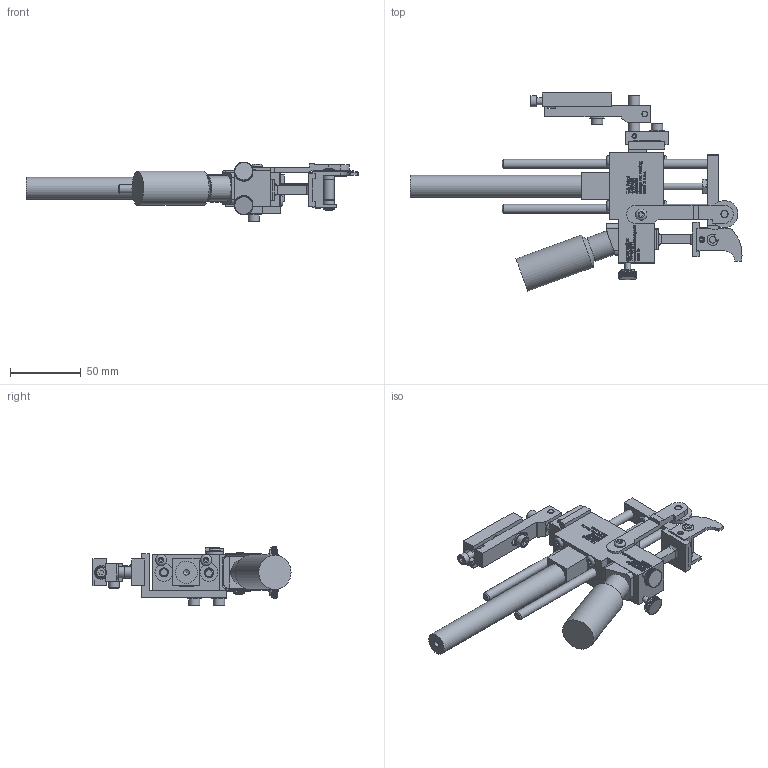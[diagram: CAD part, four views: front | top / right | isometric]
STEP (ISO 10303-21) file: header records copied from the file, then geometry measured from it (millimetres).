
FILE_DESCRIPTION((''),'2;1');
FILE_NAME('C:\Documents and Settings\Ron\My Documents\Inventor\Sprinter Drawing\Machines in Inventor\Model 66\Type\Ext Hd 1in\Brkt\Ret\Model 66 Ext HD 1in type Ret w brkt mod 2012.stp','2012-02-29T07:57:02',('Ron'),(''),'Autodesk Inventor 2011','Autodesk Inventor 2011','');
FILE_SCHEMA(('AUTOMOTIVE_DESIGN { 1 0 10303 214 1 1 1 1 }'));
Length unit declared in the file: inch
Products named in the file (44): Model 66 Ext HD 1in type Ret w brkt mod 2012; 66 Frame Body Assy Ext w brkt; 66 Frame Body; Hexagon Socket Button Head Cap Screw - Inch 8 - 32 x 1/4; Hexagon Socket Head Cap Screw - Inch No. 8 - 32 UNC - 1 1/2; 66 Linear Bearing; 66 Ink; 66 INK BOTTLE; 66 Ink Pad; 66-15-EH1 Whl Brk Arm; 8-32x0.25 Hexagon Socket Button Head Cap Screw ANSI/ASME B18.3; 44 Cam Wheel; 44 Wheel Retainer; 10 Ink Resevior Lock Screw; Model 66 Bracket; Model 66 RPB; rpb4; rpb3; rpb-1; rpb2; No. 10-24x0.88 Hexagon socket head cap screw ANSI/ASME B18.3; Type B - Plain Washer (Inch) No. 10 - narrow - Type B; 66 Machine Mounting Pivot Bracket; Pin - Hardened Ground Machine Dowel (Inch) 1/8 x 3/8; Rod Carrier Standard Retracted EH 1in; Rod Carrier Retracted Ext Head; 66 Rod Carrier; 44 & up Removable Marking Head Securing Post; Type A - Hexagon Socket Set Screw - Cup Point - Inch 8-32 UNC x 0.32; 66 PIVOT SHAFT; 66 PIVOT SHAFT LOCKING RING; 23 66 invert block; AS 1112 (4)  - Metric M6; Hexagon Socket Set Screw - Flat Point - Inch 6-32 UNC x 0.45; 19 Rod Carrier Set Screws; 66 Spring; 66 EH1 66 STAMP HEAD; 66 EH-1 marking head plate; 66-28; Part # 28 - 66 stamp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
Assembly tree (61 placements, depth 5):
  Model 66 Ext HD 1in type Ret w brkt mod 2012
    66 Frame Body Assy Ext w brkt
      66 Frame Body
      Hexagon Socket Button Head Cap Screw - Inch 8 - 32 x 1/4  x4
      Hexagon Socket Head Cap Screw - Inch No. 8 - 32 UNC - 1 1/2  x2
      66 Linear Bearing  x2
      66 Ink
      66 INK BOTTLE
      66 Ink Pad
      66-15-EH1 Whl Brk Arm
      8-32x0.25 Hexagon Socket Button Head Cap Screw ANSI/ASME B18.3
      44 Cam Wheel
      44 Wheel Retainer
      10 Ink Resevior Lock Screw  x2
      Model 66 Bracket
        Model 66 RPB
          rpb4
          rpb3
          rpb-1
          rpb2
          No. 10-24x0.88 Hexagon socket head cap screw ANSI/ASME B18.3  x5
          Type B - Plain Washer (Inch) No. 10 - narrow - Type B  x4
          66 Machine Mounting Pivot Bracket
          Pin - Hardened Ground Machine Dowel (Inch) 1/8 x 3/8  x2
    Rod Carrier Standard Retracted EH 1in
      Rod Carrier Retracted Ext Head
        66 Rod Carrier
        44 & up Removable Marking Head Securing Post
        Type A - Hexagon Socket Set Screw - Cup Point - Inch 8-32 UNC x 0.32
        66 PIVOT SHAFT
        66 PIVOT SHAFT LOCKING RING  x2
        23 66 invert block
        AS 1112 (4)  - Metric M6
        Hexagon Socket Set Screw - Flat Point - Inch 6-32 UNC x 0.45
        19 Rod Carrier Set Screws  x2
        66 Spring
        66 EH1 66 STAMP HEAD
          44 & up Removable Marking Head Securing Post
          66 EH-1 marking head plate
          66-28
          Part # 28 - 66 stamp
        Hexagon Socket Set Screw - Flat Point - Inch 8-32 UNC x 0.32
      Model 66, EH1 std .25 x 6  x2
    EH1 ret std
    10-32 PORTS DECAL
Bounding box: 234.01 x 139.56 x 42.07 mm (x, y, z)
Volume: 176374.2 mm3; surface area: 91218.8 mm2
Topology: 428 solids, 428 shells, 6378 faces, 15637 edges, 9684 vertices
Faces by surface type: plane 4398, bspline 1301, cylinder 572, cone 84, torus 23
Full cylindrical faces by diameter (mm): 1.575 x1, 2.54 x2, 2.642 x3, 3.175 x4, 3.2 x1, 3.302 x12, 3.505 x1, 3.683 x2, 3.962 x12, 4.064 x2, 4.166 x11, 4.318 x2, 4.699 x3, 4.75 x3, 4.775 x2, 4.826 x8, 4.864 x2, 4.917 x1, 5.08 x2, 5.156 x7, 5.182 x1, 5.359 x1, 5.556 x1, 6.325 x2, 6.35 x7, 6.426 x1, 6.604 x1, 6.858 x2, 7.353 x4, 7.62 x2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
Entity records: 152405 total; most frequent: CARTESIAN_POINT 45309, ORIENTED_EDGE 23666, DIRECTION 17058, EDGE_CURVE 11833, VECTOR 8398, LINE 8398, VERTEX_POINT 7589, EDGE_LOOP 5280
